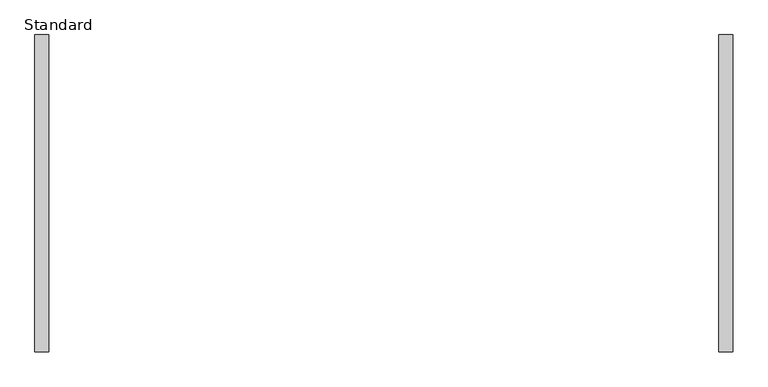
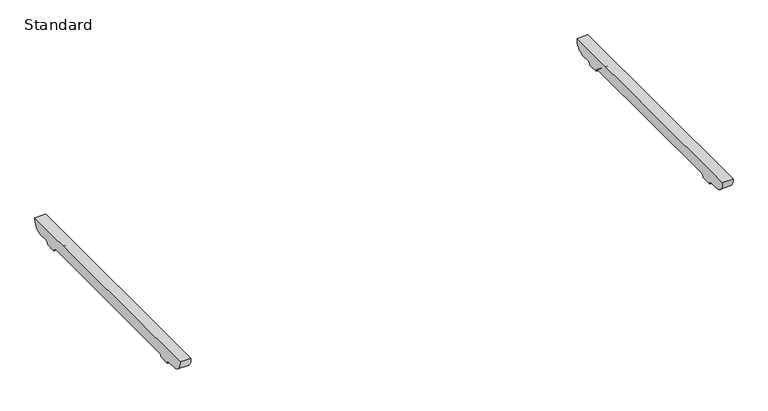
"""IFC4 building model written with IfcOpenShell, lengths in millimetres: furniture geometry, BDG_BossDesign_Tbls_AgentTables4Legs_Nested : Standard."""

from ifc_helpers import new_model, si_unit, point, frame, frame_2d, origin, place, context, project, spatial, polyline, circle_curve, trimmed, segment, composite_curve, outline, extrude, source, transform, mapped, element, save


def standard_6f20e87f(model_context):
    return source(origin(), model_context, "Body", "SweptSolid", [
        extrude(outline(composite_curve([segment(polyline([(480.5450184, 672.0), (442.7000122, 672.0)]), True, "CONTINUOUS"), segment(trimmed(circle_curve(frame_2d((442.7000122, 660.0)), 12.0), [point((442.7000122, 672.0))], [point((430.7000122, 660.0))], True, "CARTESIAN"), True, "CONTINUOUS"), segment(polyline([(430.7000122, 660.0), (385.7000122, 660.0)]), True, "CONTINUOUS"), segment(trimmed(circle_curve(frame_2d((373.7000122, 660.0)), 12.0), [point((385.7000122, 660.0))], [point((373.7000122, 672.0))], True, "CARTESIAN"), True, "CONTINUOUS"), segment(polyline([(373.7000122, 672.0), (-373.7000122, 672.0)]), True, "CONTINUOUS"), segment(trimmed(circle_curve(frame_2d((-373.7000122, 660.0)), 12.0), [point((-373.7000122, 672.0))], [point((-385.7000122, 660.0))], True, "CARTESIAN"), True, "CONTINUOUS"), segment(polyline([(-385.7000122, 660.0), (-430.7000122, 660.0)]), True, "CONTINUOUS"), segment(trimmed(circle_curve(frame_2d((-442.7000122, 660.0)), 12.0), [point((-430.7000122, 660.0))], [point((-442.7000122, 672.0))], True, "CARTESIAN"), True, "CONTINUOUS"), segment(polyline([(-442.7000122, 672.0), (-480.5450184, 672.0)]), True, "CONTINUOUS"), segment(trimmed(circle_curve(frame_2d((-478.2220439, 716.5514119)), 44.6119324), [point((-480.5450184, 672.0))], [point((-522.5, 722.0))], False, "CARTESIAN"), True, "CONTINUOUS"), segment(polyline([(-522.5, 722.0), (522.5, 722.0)]), True, "CONTINUOUS"), segment(trimmed(circle_curve(frame_2d((478.2220439, 716.5514119)), 44.6119324), [point((522.5, 722.0))], [point((480.5450184, 672.0))], False, "CARTESIAN"), True, "CONTINUOUS")], self_intersect=False)), frame((1105.0, 0.0, 0.0), z_axis=(1.0, 0.0, 0.0), x_axis=(0.0, 1.0, 0.0)), (0.0, 0.0, 1.0), 45.0),
        extrude(outline(composite_curve([segment(polyline([(480.5450184, 672.0), (442.7000122, 672.0)]), True, "CONTINUOUS"), segment(trimmed(circle_curve(frame_2d((442.7000122, 660.0)), 12.0), [point((442.7000122, 672.0))], [point((430.7000122, 660.0))], True, "CARTESIAN"), True, "CONTINUOUS"), segment(polyline([(430.7000122, 660.0), (385.7000122, 660.0)]), True, "CONTINUOUS"), segment(trimmed(circle_curve(frame_2d((373.7000122, 660.0)), 12.0), [point((385.7000122, 660.0))], [point((373.7000122, 672.0))], True, "CARTESIAN"), True, "CONTINUOUS"), segment(polyline([(373.7000122, 672.0), (-373.7000122, 672.0)]), True, "CONTINUOUS"), segment(trimmed(circle_curve(frame_2d((-373.7000122, 660.0)), 12.0), [point((-373.7000122, 672.0))], [point((-385.7000122, 660.0))], True, "CARTESIAN"), True, "CONTINUOUS"), segment(polyline([(-385.7000122, 660.0), (-430.7000122, 660.0)]), True, "CONTINUOUS"), segment(trimmed(circle_curve(frame_2d((-442.7000122, 660.0)), 12.0), [point((-430.7000122, 660.0))], [point((-442.7000122, 672.0))], True, "CARTESIAN"), True, "CONTINUOUS"), segment(polyline([(-442.7000122, 672.0), (-480.5450184, 672.0)]), True, "CONTINUOUS"), segment(trimmed(circle_curve(frame_2d((-478.2220439, 716.5514119)), 44.6119324), [point((-480.5450184, 672.0))], [point((-522.5, 722.0))], False, "CARTESIAN"), True, "CONTINUOUS"), segment(polyline([(-522.5, 722.0), (522.5, 722.0)]), True, "CONTINUOUS"), segment(trimmed(circle_curve(frame_2d((478.2220439, 716.5514119)), 44.6119324), [point((522.5, 722.0))], [point((480.5450184, 672.0))], False, "CARTESIAN"), True, "CONTINUOUS")], self_intersect=False)), frame((-1150.0, 0.0, 0.0), z_axis=(1.0, 0.0, 0.0), x_axis=(0.0, 1.0, 0.0)), (0.0, 0.0, 1.0), 45.0),
    ])


if __name__ == "__main__":
    model = new_model("IFC4")
    model_context = context("Model", 3, world=origin())
    ifc_project = project(units=[si_unit("LENGTHUNIT", "METRE", prefix="MILLI")], contexts=[model_context])
    site = spatial("IfcSite", under=ifc_project)
    building = spatial("IfcBuilding", under=site)
    placement = place(None, origin())
    standard_shape = standard_6f20e87f(model_context)
    element("IfcFurniture", 1, ObjectType="BDG_BossDesign_Tbls_AgentTables4Legs_Nested : Standard", at=placement, inside=building, context=model_context, shape_type="MappedRepresentation", body=[
        mapped(standard_shape, transform((0.0, 0.0, 0.0), x_axis=(1.0, 0.0, 0.0), y_axis=(0.0, 1.0, 0.0), z_axis=(0.0, 0.0, 1.0))),
    ])
    save(model, "model.ifc")
